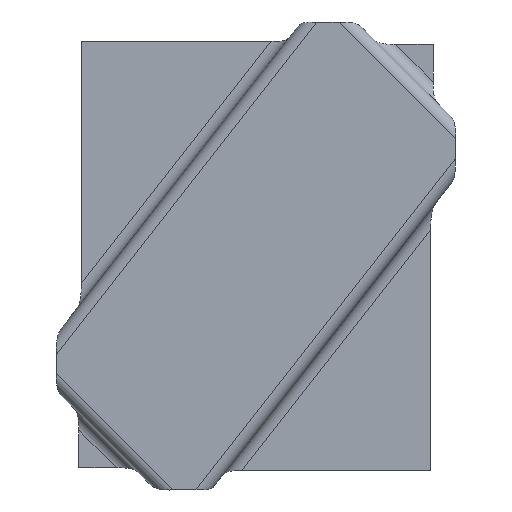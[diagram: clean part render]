
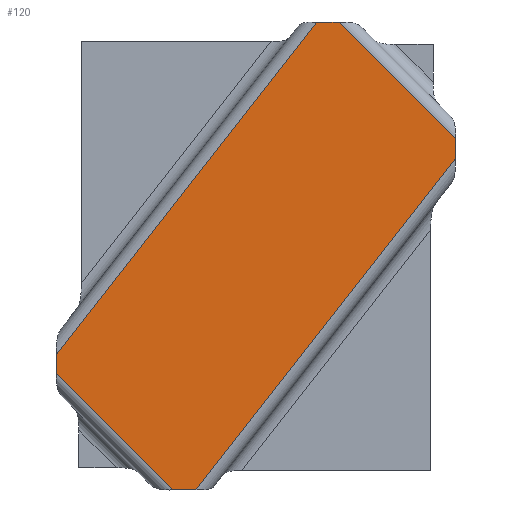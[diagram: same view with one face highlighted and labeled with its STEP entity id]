
A CAD part, top view. The second image highlights one B-rep face of the part: STEP entity #120.
In plain terms, the highlighted planar face has unit normal (0, 0, -1).
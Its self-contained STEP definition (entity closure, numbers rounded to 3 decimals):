
#53=CARTESIAN_POINT('Axis2P3D Location',(-51.044,39.969,65.33)) ;
#59=CARTESIAN_POINT('Control Point',(-51.044,79.406,65.33)) ;
#60=CARTESIAN_POINT('Control Point',(24.566,175.969,65.33)) ;
#61=CARTESIAN_POINT('Vertex',(-51.044,79.406,65.33)) ;
#63=CARTESIAN_POINT('Vertex',(24.566,175.969,65.33)) ;
#66=CARTESIAN_POINT('Line Origine',(6.956,175.969,65.33)) ;
#70=CARTESIAN_POINT('Vertex',(31.13,175.969,65.33)) ;
#74=CARTESIAN_POINT('Control Point',(31.13,175.969,65.33)) ;
#75=CARTESIAN_POINT('Control Point',(64.956,142.143,65.33)) ;
#76=CARTESIAN_POINT('Vertex',(64.956,142.143,65.33)) ;
#79=CARTESIAN_POINT('Line Origine',(64.956,107.969,65.33)) ;
#83=CARTESIAN_POINT('Vertex',(64.956,136.326,65.33)) ;
#87=CARTESIAN_POINT('Control Point',(64.956,136.326,65.33)) ;
#88=CARTESIAN_POINT('Control Point',(-10.494,39.969,65.33)) ;
#89=CARTESIAN_POINT('Vertex',(-10.494,39.969,65.33)) ;
#92=CARTESIAN_POINT('Line Origine',(6.956,39.969,65.33)) ;
#96=CARTESIAN_POINT('Vertex',(-17.218,39.969,65.33)) ;
#100=CARTESIAN_POINT('Control Point',(-51.044,73.794,65.33)) ;
#101=CARTESIAN_POINT('Control Point',(-17.218,39.969,65.33)) ;
#102=CARTESIAN_POINT('Vertex',(-51.044,73.794,65.33)) ;
#105=CARTESIAN_POINT('Line Origine',(-51.044,107.969,65.33)) ;
#54=DIRECTION('Axis2P3D Direction',(0.,0.,1.)) ;
#55=DIRECTION('Axis2P3D XDirection',(1.,0.,0.)) ;
#67=DIRECTION('Vector Direction',(1.,0.,0.)) ;
#80=DIRECTION('Vector Direction',(0.,1.,0.)) ;
#93=DIRECTION('Vector Direction',(1.,0.,0.)) ;
#106=DIRECTION('Vector Direction',(0.,1.,0.)) ;
#56=AXIS2_PLACEMENT_3D('Plane Axis2P3D',#53,#54,#55) ;
#111=ORIENTED_EDGE('',*,*,#65,.T.) ;
#112=ORIENTED_EDGE('',*,*,#72,.T.) ;
#113=ORIENTED_EDGE('',*,*,#78,.T.) ;
#114=ORIENTED_EDGE('',*,*,#85,.T.) ;
#115=ORIENTED_EDGE('',*,*,#91,.T.) ;
#116=ORIENTED_EDGE('',*,*,#98,.T.) ;
#117=ORIENTED_EDGE('',*,*,#104,.F.) ;
#118=ORIENTED_EDGE('',*,*,#109,.T.) ;
#68=VECTOR('Line Direction',#67,1.) ;
#81=VECTOR('Line Direction',#80,1.) ;
#94=VECTOR('Line Direction',#93,1.) ;
#107=VECTOR('Line Direction',#106,1.) ;
#120=ADVANCED_FACE('Offset.1',(#119),#57,.F.) ;
#58=B_SPLINE_CURVE_WITH_KNOTS('',1,(#59,#60),.UNSPECIFIED.,.F.,.U.,(2,2),(-61.321,61.321),.UNSPECIFIED.) ;
#73=B_SPLINE_CURVE_WITH_KNOTS('',1,(#74,#75),.UNSPECIFIED.,.F.,.U.,(2,2),(-23.919,23.919),.UNSPECIFIED.) ;
#86=B_SPLINE_CURVE_WITH_KNOTS('',1,(#87,#88),.UNSPECIFIED.,.F.,.U.,(2,2),(-61.191,61.191),.UNSPECIFIED.) ;
#99=B_SPLINE_CURVE_WITH_KNOTS('',1,(#100,#101),.UNSPECIFIED.,.F.,.U.,(2,2),(-23.919,23.919),.UNSPECIFIED.) ;
#65=EDGE_CURVE('',#62,#64,#58,.T.) ;
#72=EDGE_CURVE('',#64,#71,#69,.T.) ;
#78=EDGE_CURVE('',#71,#77,#73,.T.) ;
#85=EDGE_CURVE('',#77,#84,#82,.F.) ;
#91=EDGE_CURVE('',#84,#90,#86,.T.) ;
#98=EDGE_CURVE('',#90,#97,#95,.F.) ;
#104=EDGE_CURVE('',#103,#97,#99,.T.) ;
#109=EDGE_CURVE('',#103,#62,#108,.T.) ;
#110=EDGE_LOOP('',(#111,#112,#113,#114,#115,#116,#117,#118)) ;
#119=FACE_OUTER_BOUND('',#110,.T.) ;
#69=LINE('Line',#66,#68) ;
#82=LINE('Line',#79,#81) ;
#95=LINE('Line',#92,#94) ;
#108=LINE('Line',#105,#107) ;
#57=PLANE('',#56) ;
#62=VERTEX_POINT('',#61) ;
#64=VERTEX_POINT('',#63) ;
#71=VERTEX_POINT('',#70) ;
#77=VERTEX_POINT('',#76) ;
#84=VERTEX_POINT('',#83) ;
#90=VERTEX_POINT('',#89) ;
#97=VERTEX_POINT('',#96) ;
#103=VERTEX_POINT('',#102) ;
